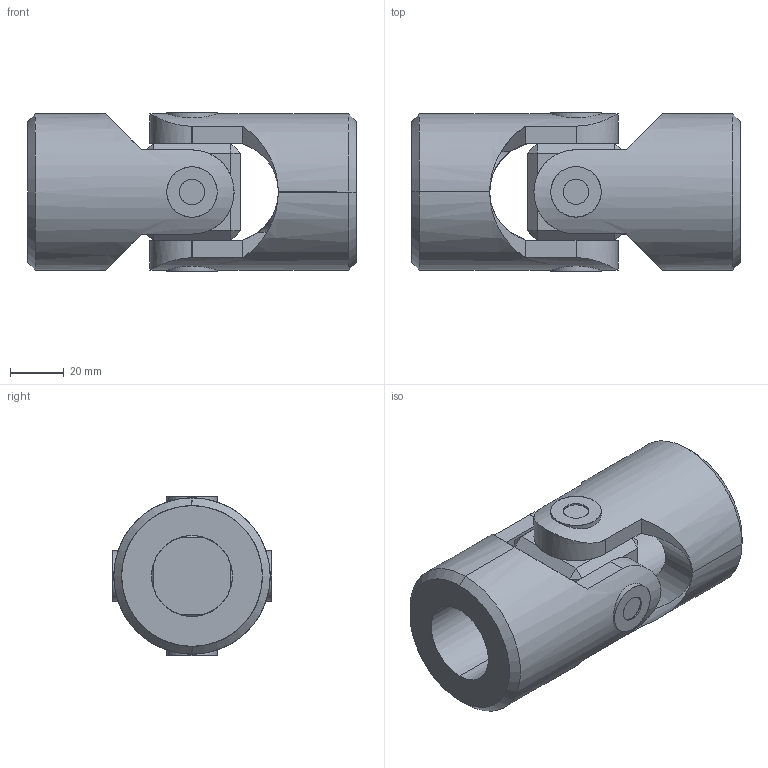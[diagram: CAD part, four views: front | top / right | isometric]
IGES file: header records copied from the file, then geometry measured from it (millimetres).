
Start section: SolidWorks IGES file using analytic representation for surfaces
Global section: file name: C:\Users\IanO\Desktop\R3690_v2\R3690_v2_20231020_IGES\R3690.030-RB.igs; native system: SolidWorks 2019; preprocessor: SolidWorks 2019; author: IanO; date: 231020.152327; units: millimetre
Bounding box: 122 x 59.16 x 59.16 mm (x, y, z)
Surface area: 53974.8 mm2 (no closed solid volume)
Topology: 0 solids, 0 shells, 104 faces, 2484 edges, 2484 vertices
Faces by surface type: bspline 56, revolution 48
